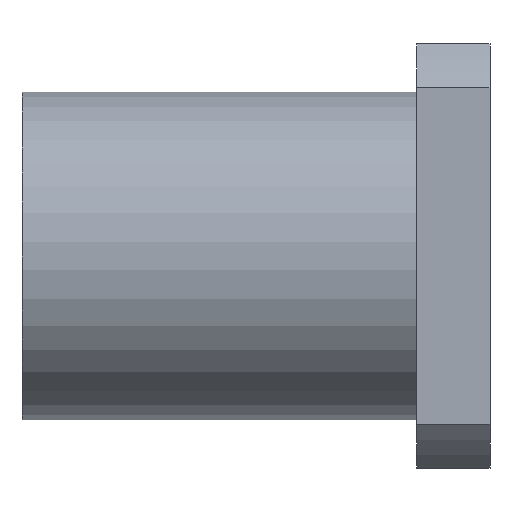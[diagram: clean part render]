
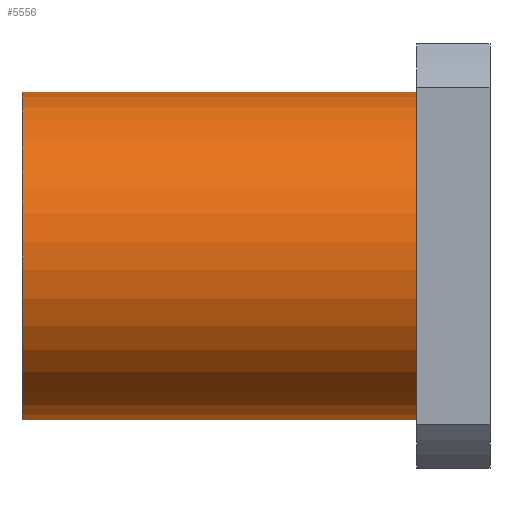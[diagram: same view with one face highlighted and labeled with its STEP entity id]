
A CAD part, front view. The second image highlights one B-rep face of the part: STEP entity #5556.
In plain terms, the highlighted cylindrical face has radius 22.5 mm (diameter 45 mm), a full revolution.
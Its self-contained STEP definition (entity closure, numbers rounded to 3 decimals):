
#84=CYLINDRICAL_SURFACE('',#5916,22.5);
#119=CIRCLE('',#5917,22.5);
#120=CIRCLE('',#5918,22.5);
#1698=ORIENTED_EDGE('',*,*,#3301,.T.);
#1699=ORIENTED_EDGE('',*,*,#3302,.T.);
#3301=EDGE_CURVE('',#4101,#4101,#119,.T.);
#3302=EDGE_CURVE('',#4102,#4102,#120,.F.);
#4101=VERTEX_POINT('',#8844);
#4102=VERTEX_POINT('',#8846);
#4556=EDGE_LOOP('',(#1698));
#4557=EDGE_LOOP('',(#1699));
#4955=FACE_BOUND('',#4556,.T.);
#4956=FACE_BOUND('',#4557,.T.);
#5556=ADVANCED_FACE('',(#4955,#4956),#84,.T.);
#5916=AXIS2_PLACEMENT_3D('',#8842,#6440,#6441);
#5917=AXIS2_PLACEMENT_3D('',#8843,#6442,#6443);
#5918=AXIS2_PLACEMENT_3D('',#8845,#6444,#6445);
#6440=DIRECTION('',(1.,0.,0.));
#6441=DIRECTION('',(0.,0.707,-0.707));
#6442=DIRECTION('',(1.,0.,0.));
#6443=DIRECTION('',(0.,0.707,-0.707));
#6444=DIRECTION('',(1.,0.,0.));
#6445=DIRECTION('',(0.,0.707,-0.707));
#8842=CARTESIAN_POINT('',(-32.,0.,0.));
#8843=CARTESIAN_POINT('',(-32.,0.,0.));
#8844=CARTESIAN_POINT('',(-32.,15.91,-15.91));
#8845=CARTESIAN_POINT('',(22.,0.,0.));
#8846=CARTESIAN_POINT('',(22.,15.91,-15.91));
